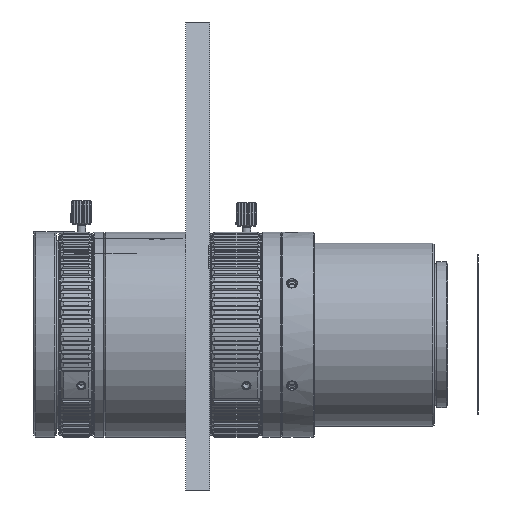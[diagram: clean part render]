
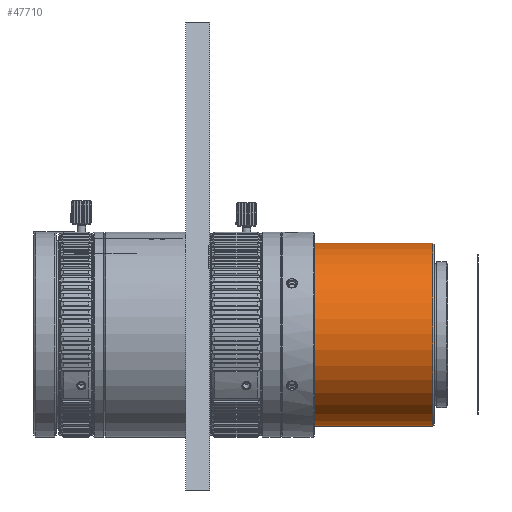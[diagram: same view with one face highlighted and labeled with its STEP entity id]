
A CAD part, top view. The second image highlights one B-rep face of the part: STEP entity #47710.
In plain terms, the highlighted cylindrical face has radius 26.35 mm (diameter 52.7 mm), a partial arc.
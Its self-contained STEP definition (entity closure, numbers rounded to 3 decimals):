
#22653=CARTESIAN_POINT('',(-47.116,0.,0.));
#22654=DIRECTION('',(1.,0.,0.));
#22655=DIRECTION('',(0.,1.,0.));
#22656=AXIS2_PLACEMENT_3D('',#22653,#22654,#22655);
#22669=DIRECTION('',(1.,0.,0.));
#22670=VECTOR('',#22669,34.2);
#22671=CARTESIAN_POINT('',(-47.116,26.35,0.));
#22672=LINE('',#22671,#22670);
#22676=CARTESIAN_POINT('',(-12.916,0.,0.));
#22677=DIRECTION('',(-1.,0.,0.));
#22678=DIRECTION('',(0.,-1.,0.));
#22679=AXIS2_PLACEMENT_3D('',#22676,#22677,#22678);
#22706=DIRECTION('',(1.,0.,0.));
#22707=VECTOR('',#22706,34.2);
#22708=CARTESIAN_POINT('',(-47.116,-26.35,0.));
#22709=LINE('',#22708,#22707);
#29527=CARTESIAN_POINT('',(-47.116,26.35,0.));
#29528=CARTESIAN_POINT('',(-47.116,-26.35,0.));
#29529=VERTEX_POINT('',#29527);
#29530=VERTEX_POINT('',#29528);
#29531=CARTESIAN_POINT('',(-12.916,-26.35,0.));
#29532=CARTESIAN_POINT('',(-12.916,26.35,0.));
#29533=VERTEX_POINT('',#29531);
#29534=VERTEX_POINT('',#29532);
#47696=CARTESIAN_POINT('',(-49.041,0.,0.));
#47697=DIRECTION('',(1.,0.,0.));
#47698=DIRECTION('',(0.,-1.,0.));
#47699=AXIS2_PLACEMENT_3D('',#47696,#47697,#47698);
#47700=CYLINDRICAL_SURFACE('',#47699,26.35);
#47702=ORIENTED_EDGE('',*,*,#47701,.F.);
#47704=ORIENTED_EDGE('',*,*,#47703,.F.);
#47705=ORIENTED_EDGE('',*,*,#47689,.F.);
#47707=ORIENTED_EDGE('',*,*,#47706,.T.);
#47708=EDGE_LOOP('',(#47702,#47704,#47705,#47707));
#47709=FACE_OUTER_BOUND('',#47708,.F.);
#47710=ADVANCED_FACE('',(#47709),#47700,.T.);
#22657=CIRCLE('',#22656,26.35);
#22680=CIRCLE('',#22679,26.35);
#47689=EDGE_CURVE('',#29529,#29530,#22657,.T.);
#47701=EDGE_CURVE('',#29533,#29534,#22680,.T.);
#47703=EDGE_CURVE('',#29530,#29533,#22709,.T.);
#47706=EDGE_CURVE('',#29529,#29534,#22672,.T.);
